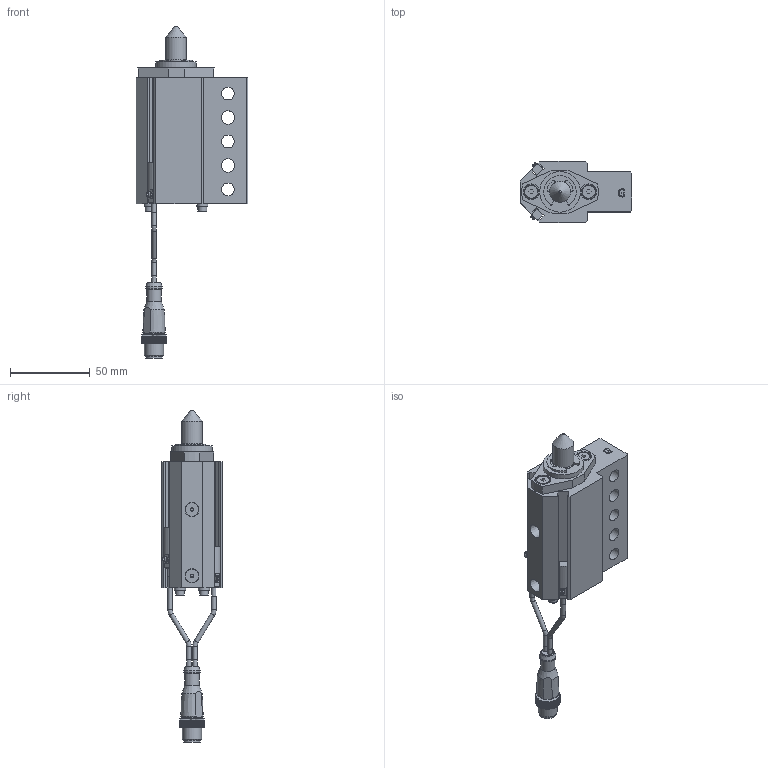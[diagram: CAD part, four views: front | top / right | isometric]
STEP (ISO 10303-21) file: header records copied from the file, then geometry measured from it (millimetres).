
FILE_DESCRIPTION(/* description */ ('NAAMS FLOATING MICRO PIN'),/* implementation_level */ '2;1');
FILE_NAME(/* name */ 'C:\Vault Workspace\CAD\Welker\Shot Pin\NMP\NMP130012AGNL3.stp',/* time_stamp */ '2021-01-27T11:00:21-05:00',/* author */ ('WELKER'),/* organization */ (''),/* preprocessor_version */ 'ST-DEVELOPER v18.1',/* originating_system */ 'Autodesk Inventor 2020',/* authorisation */ '');
FILE_SCHEMA (('AUTOMOTIVE_DESIGN { 1 0 10303 214 3 1 1 }'));
Length unit declared in the file: millimetre
Products named in the file (16): NMPL01; NMP L3 SWITCH; L3 Connector; L3 Sensor 1; L3 Sensor 2; L3 Sensor cable; L3 Sensor cable 2; M3X0.5-8 SHCS; NL3; NMPE06; NMPE03; NMPE05-DIA-LENGTH; 985432A218; NMPE01G-PORT; RMPE02; M5X5 SHOULDER
Assembly tree (22 placements, depth 3):
  NMPL01
    NMP L3 SWITCH
      L3 Connector
      L3 Sensor 1
      L3 Sensor 2
      L3 Sensor cable
      L3 Sensor cable 2
    M3X0.5-8 SHCS  x4
    NL3  x4
    NMPE06
    NMPE03
    NMPE05-DIA-LENGTH
    985432A218
    NMPE01G-PORT
    RMPE02
    M5X5 SHOULDER  x2
Bounding box: 70 x 38.1 x 207.71 mm (x, y, z)
Volume: 132766 mm3; surface area: 49585.9 mm2
Topology: 21 solids, 21 shells, 758 faces, 2085 edges, 1398 vertices
Faces by surface type: plane 545, cylinder 148, cone 35, bspline 16, torus 11, sphere 3
Full cylindrical faces by diameter (mm): 2 x2, 2.459 x4, 2.9 x10, 3 x5, 3.242 x2, 3.4 x4, 4 x2, 5 x6, 5.5 x4, 6.647 x2, 7 x4, 8 x5, 8.3 x2, 8.5 x2, 9 x3, 10 x3, 10.4 x1, 10.5 x1, 12 x1, 13 x3, 16 x2, 19.05 x3, 21 x1, 22.5 x1, 23.673 x1, 24 x1, 25.4 x1, 25.5 x1, 26.5 x1, 28.677 x1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
Entity records: 23720 total; most frequent: CARTESIAN_POINT 4677, ORIENTED_EDGE 3860, DIRECTION 3758, EDGE_CURVE 1930, LINE 1390, VECTOR 1390, VERTEX_POINT 1303, AXIS2_PLACEMENT_3D 1184
